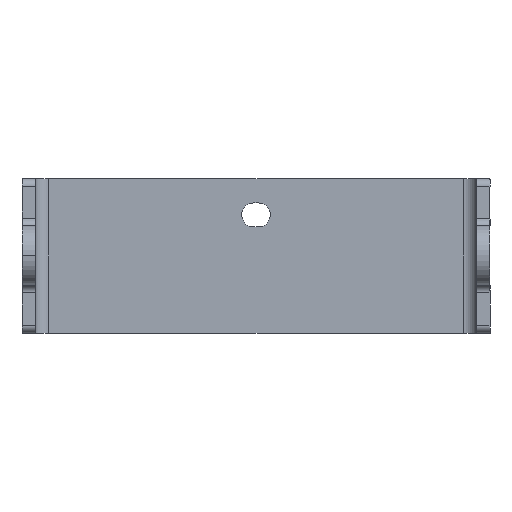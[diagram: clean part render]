
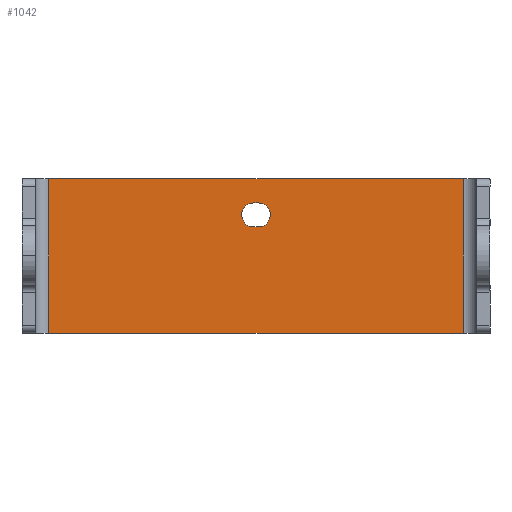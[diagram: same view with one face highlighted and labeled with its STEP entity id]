
A CAD part, left-side view. The second image highlights one B-rep face of the part: STEP entity #1042.
In plain terms, the highlighted planar face has unit normal (-1, 0, 0).
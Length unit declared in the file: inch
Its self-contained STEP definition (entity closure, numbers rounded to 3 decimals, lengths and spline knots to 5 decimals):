
#71=DIRECTION('',(0.,-1.,0.));
#72=VECTOR('',#71,3.28843);
#73=CARTESIAN_POINT('',(0.16182,-0.105,-0.49789));
#74=LINE('',#73,#72);
#179=DIRECTION('',(0.,0.,-1.));
#180=VECTOR('',#179,1.22047);
#181=CARTESIAN_POINT('',(0.16182,-3.39343,
0.72259));
#182=LINE('',#181,#180);
#187=CARTESIAN_POINT('',(0.16182,-1.7689,
0.43794));
#188=DIRECTION('',(1.,0.,0.));
#189=DIRECTION('',(0.,0.,1.));
#190=AXIS2_PLACEMENT_3D('',#187,#188,#189);
#192=CARTESIAN_POINT('',(0.16182,-1.72953,
0.43794));
#193=DIRECTION('',(-1.,0.,0.));
#194=DIRECTION('',(0.,0.,1.));
#195=AXIS2_PLACEMENT_3D('',#192,#193,#194);
#197=DIRECTION('',(0.,1.,0.));
#198=VECTOR('',#197,0.03937);
#199=CARTESIAN_POINT('',(0.16182,-1.7689,
0.34345));
#200=LINE('',#199,#198);
#217=DIRECTION('',(0.,-1.,0.));
#218=VECTOR('',#217,0.03937);
#219=CARTESIAN_POINT('',(0.16182,-1.72953,
0.53243));
#220=LINE('',#219,#218);
#269=DIRECTION('',(0.,1.,0.));
#270=VECTOR('',#269,3.28843);
#271=CARTESIAN_POINT('',(0.16182,-3.39343,
0.72259));
#272=LINE('',#271,#270);
#273=DIRECTION('',(0.,0.,1.));
#274=VECTOR('',#273,1.22047);
#275=CARTESIAN_POINT('',(0.16182,-0.105,-0.49789));
#276=LINE('',#275,#274);
#679=CARTESIAN_POINT('',(0.16182,-0.105,-0.49789));
#680=CARTESIAN_POINT('',(0.16182,-0.105,0.72259));
#681=VERTEX_POINT('',#679);
#682=VERTEX_POINT('',#680);
#683=CARTESIAN_POINT('',(0.16182,-1.72953,
0.53243));
#684=CARTESIAN_POINT('',(0.16182,-1.72953,
0.34345));
#685=VERTEX_POINT('',#683);
#686=VERTEX_POINT('',#684);
#759=CARTESIAN_POINT('',(0.16182,-1.7689,
0.53243));
#760=CARTESIAN_POINT('',(0.16182,-1.7689,
0.34345));
#761=VERTEX_POINT('',#759);
#762=VERTEX_POINT('',#760);
#763=CARTESIAN_POINT('',(0.16182,-3.39343,
0.72259));
#764=CARTESIAN_POINT('',(0.16182,-3.39343,
-0.49789));
#765=VERTEX_POINT('',#763);
#766=VERTEX_POINT('',#764);
#1019=CARTESIAN_POINT('',(0.16182,-0.92711,
0.11235));
#1020=DIRECTION('',(1.,0.,0.));
#1021=DIRECTION('',(0.,0.,1.));
#1022=AXIS2_PLACEMENT_3D('',#1019,#1020,#1021);
#1023=PLANE('',#1022);
#1025=ORIENTED_EDGE('',*,*,#1024,.F.);
#1026=ORIENTED_EDGE('',*,*,#1010,.T.);
#1027=ORIENTED_EDGE('',*,*,#857,.F.);
#1029=ORIENTED_EDGE('',*,*,#1028,.T.);
#1030=EDGE_LOOP('',(#1025,#1026,#1027,#1029));
#1031=FACE_OUTER_BOUND('',#1030,.F.);
#1033=ORIENTED_EDGE('',*,*,#1032,.F.);
#1035=ORIENTED_EDGE('',*,*,#1034,.F.);
#1037=ORIENTED_EDGE('',*,*,#1036,.F.);
#1039=ORIENTED_EDGE('',*,*,#1038,.T.);
#1040=EDGE_LOOP('',(#1033,#1035,#1037,#1039));
#1041=FACE_BOUND('',#1040,.F.);
#1042=ADVANCED_FACE('',(#1031,#1041),#1023,.F.);
#191=CIRCLE('',#190,0.09449);
#196=CIRCLE('',#195,0.09449);
#857=EDGE_CURVE('',#681,#766,#74,.T.);
#1010=EDGE_CURVE('',#765,#766,#182,.T.);
#1024=EDGE_CURVE('',#765,#682,#272,.T.);
#1028=EDGE_CURVE('',#681,#682,#276,.T.);
#1032=EDGE_CURVE('',#762,#686,#200,.T.);
#1034=EDGE_CURVE('',#761,#762,#191,.T.);
#1036=EDGE_CURVE('',#685,#761,#220,.T.);
#1038=EDGE_CURVE('',#685,#686,#196,.T.);
